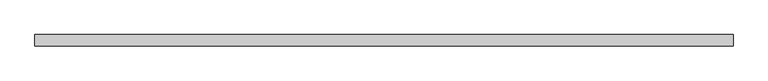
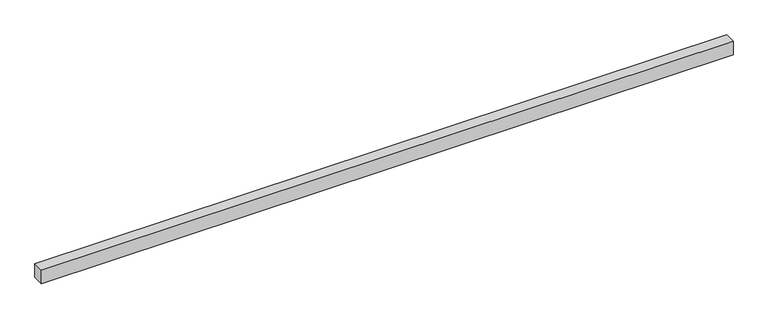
"""IFC4 building model written with IfcOpenShell, lengths in millimetres: light fixture geometry, GENILED_Светильник светодиодный_Line Advanced : Line Advanced 2450x40x50 50Вт Опал."""

from ifc_helpers import new_model, si_unit, origin, origin_with_axes, place, context, project, spatial, polyline, outline, extrude, faceted_brep, source, transform, mapped, element, save


def light_fixture_e398c37d(model_context):
    return source(origin(), model_context, "Body", "SolidModel", [
        faceted_brep([(1225.0, 20.0, 50.0), (-1225.0, 20.0, 50.0), (-1225.0, -20.0, 50.0), (1225.0, -20.0, 50.0), (1223.0, 18.0, 5.0), (1223.0, -18.0, 5.0), (-1223.0, -18.0, 5.0), (-1223.0, 18.0, 5.0), (1225.0, 20.0, 0.0), (1225.0, -20.0, 0.0), (-1225.0, -20.0, 0.0), (-1225.0, 20.0, 0.0), (1223.0, 18.0, 0.0), (-1223.0, 18.0, 0.0), (-1223.0, -18.0, 0.0), (1223.0, -18.0, 0.0)], [[[0, 1, 2, 3]], [[4, 5, 6, 7]], [[8, 9, 10, 11], [12, 13, 14, 15]], [[1, 0, 8, 11]], [[2, 1, 11, 10]], [[3, 2, 10, 9]], [[0, 3, 9, 8]], [[12, 15, 5, 4]], [[15, 14, 6, 5]], [[14, 13, 7, 6]], [[13, 12, 4, 7]]]),
        extrude(outline(polyline([(1223.0, 18.0), (1223.0, -18.0), (-1223.0, -18.0), (-1223.0, 18.0), (1223.0, 18.0)])), origin_with_axes(), (0.0, 0.0, 1.0), 5.0),
    ])


if __name__ == "__main__":
    model = new_model("IFC4")
    model_context = context("Model", 3, world=origin())
    ifc_project = project(units=[si_unit("LENGTHUNIT", "METRE", prefix="MILLI")], contexts=[model_context])
    site = spatial("IfcSite", under=ifc_project)
    building = spatial("IfcBuilding", under=site)
    placement = place(None, origin())
    light_fixture_shape = light_fixture_e398c37d(model_context)
    element("IfcLightFixture", 1, ObjectType="GENILED_Светильник светодиодный_Line Advanced : Line Advanced 2450x40x50 50Вт Опал", at=placement, inside=building, context=model_context, shape_type="MappedRepresentation", body=[
        mapped(light_fixture_shape, transform((0.0, 0.0, 0.0), x_axis=(1.0, 0.0, 0.0), y_axis=(0.0, 1.0, 0.0), z_axis=(0.0, 0.0, 1.0))),
    ])
    save(model, "model.ifc")
